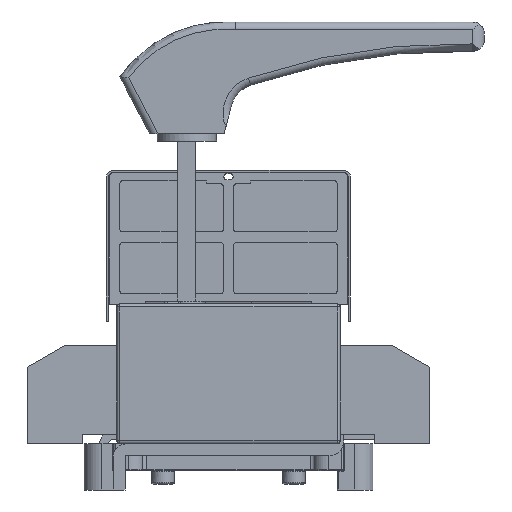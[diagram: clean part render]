
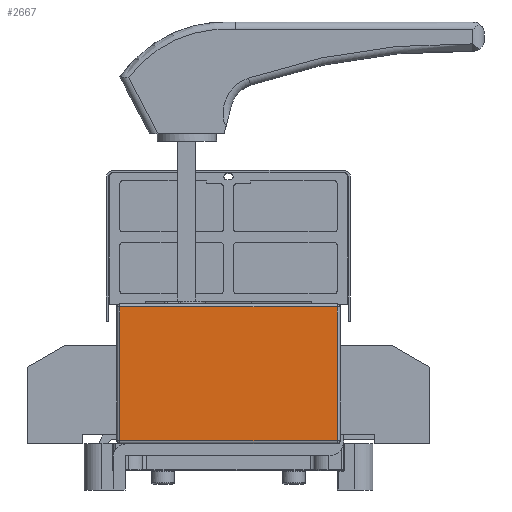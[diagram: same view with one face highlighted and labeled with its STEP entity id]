
A CAD part, left-side view. The second image highlights one B-rep face of the part: STEP entity #2667.
In plain terms, the highlighted planar face has unit normal (-1, 0, 0).
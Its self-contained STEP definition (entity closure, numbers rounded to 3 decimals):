
#1030=FACE_OUTER_BOUND('',#6081,.T.);
#2667=ADVANCED_FACE('',(#1030),#4459,.F.);
#4459=PLANE('',#33901);
#6081=EDGE_LOOP('',(#15987,#15988,#15989,#15990));
#8848=LINE('',#48225,#12218);
#8849=LINE('',#48228,#12219);
#8850=LINE('',#48230,#12220);
#8851=LINE('',#48232,#12221);
#12218=VECTOR('',#38027,1.);
#12219=VECTOR('',#38028,1.);
#12220=VECTOR('',#38029,1.);
#12221=VECTOR('',#38030,1.);
#15987=ORIENTED_EDGE('',*,*,#28522,.T.);
#15988=ORIENTED_EDGE('',*,*,#28523,.T.);
#15989=ORIENTED_EDGE('',*,*,#28524,.T.);
#15990=ORIENTED_EDGE('',*,*,#28525,.T.);
#25235=VERTEX_POINT('',#48226);
#25236=VERTEX_POINT('',#48227);
#25237=VERTEX_POINT('',#48229);
#25238=VERTEX_POINT('',#48231);
#28522=EDGE_CURVE('',#25235,#25236,#8848,.T.);
#28523=EDGE_CURVE('',#25236,#25237,#8849,.T.);
#28524=EDGE_CURVE('',#25237,#25238,#8850,.T.);
#28525=EDGE_CURVE('',#25238,#25235,#8851,.T.);
#33901=AXIS2_PLACEMENT_3D('',#48233,#38031,#38032);
#38027=DIRECTION('',(0.,0.,-1.));
#38028=DIRECTION('',(0.,-1.,0.));
#38029=DIRECTION('',(0.,0.,1.));
#38030=DIRECTION('',(0.,1.,0.));
#38031=DIRECTION('',(1.,0.,0.));
#38032=DIRECTION('',(0.,1.,0.));
#48225=CARTESIAN_POINT('',(-150.,73.,94.));
#48226=CARTESIAN_POINT('',(-150.,73.,92.));
#48227=CARTESIAN_POINT('',(-150.,73.,2.));
#48228=CARTESIAN_POINT('',(-150.,75.,2.));
#48229=CARTESIAN_POINT('',(-150.,-73.,2.));
#48230=CARTESIAN_POINT('',(-150.,-73.,94.));
#48231=CARTESIAN_POINT('',(-150.,-73.,92.));
#48232=CARTESIAN_POINT('',(-150.,73.,92.));
#48233=CARTESIAN_POINT('',(-150.,75.,94.));
